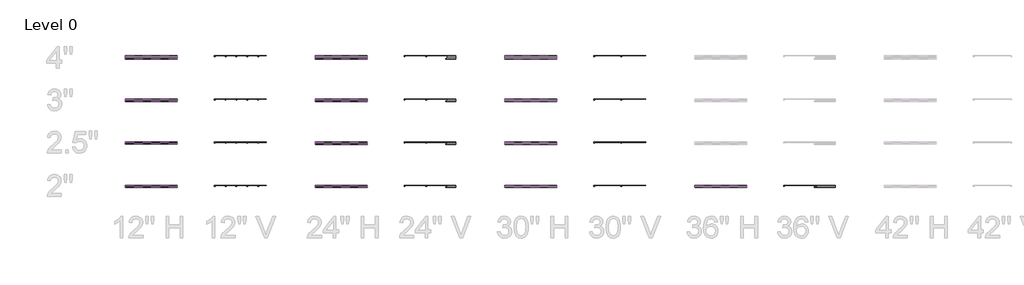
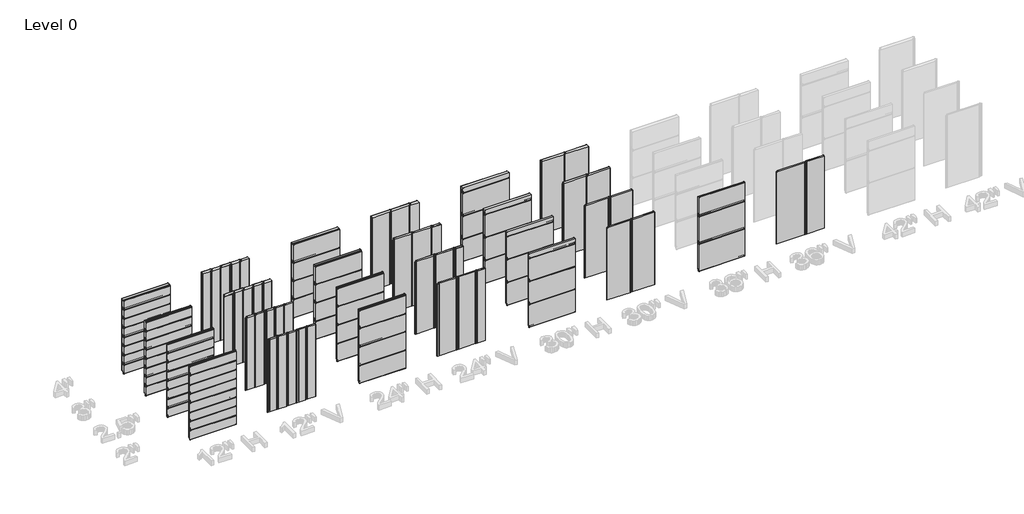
# One storey, part 1 of 5: 109 plates.
"""IFC4 building model written with IfcOpenShell, lengths in millimetres."""

from ifc_helpers import new_model, si_unit, origin, place, context, project, spatial, transform, mapped, element, save
from components import plate_6fed119e, plate_89e84f46, plate_48900397, plate_868071fc, plate_8f768d0c, plate_a425dd43, plate_01add622, plate_84317ace, plate_8016c28f, plate_4f4d566a, plate_5a420305, plate_5605c388, plate_24239458, plate_c147d802, plate_52fbea68, plate_90fd1389, plate_66907302, plate_fa82ef35, plate_a30c68ed, plate_28d234ab, plate_cdfc6812, plate_cf595729, plate_7649aaa1, plate_0d08f7c9, plate_ffddabbd, plate_2691a210, plate_176f2685, plate_24272428, plate_8a14e245, plate_b0db7024, plate_51471944, plate_6d69c0c8, plate_39f8857a, plate_e788a3fa, plate_2abe45d6, plate_93284a91, plate_cbbe2ff7, plate_451096ce, plate_f979c6ee, plate_146f869e, plate_2396645b, plate_240653d1, plate_9375496b, plate_7b326403, plate_11812fda, plate_1d9811eb, plate_a71e47d3, plate_925c1c1f

model = new_model("IFC4")

# Units and contexts
model_context = context("Model", 3, world=origin())
ifc_project = project(units=[si_unit("LENGTHUNIT", "METRE", prefix="MILLI")], contexts=[model_context])

# Site, building, storey
site = spatial("IfcSite", under=ifc_project)
building = spatial("IfcBuilding", under=site)
storey = spatial("IfcBuildingStorey", under=building, Name="Level 0", Elevation=0.0)

# Plates
placement = place(None, origin())
plate_shape = plate_6fed119e(model_context)
element("IfcPlate", 1, ObjectType="KIP-36-DWHR-R19-CP-Hz-F : Hz 2\"", at=placement, inside=storey, context=model_context, shape_type="MappedRepresentation", body=[
    mapped(plate_shape, transform((-13782.7250935, 10881.8207172, 0.0), x_axis=(1.0, 0.0, 0.0), y_axis=(0.0, 1.0, 0.0), z_axis=(0.0, 0.0, 1.0))),
])
element("IfcPlate", 2, ObjectType="KIP-36-DWHR-R19-CP-Hz-F : Hz 2\"", at=placement, inside=storey, context=model_context, shape_type="MappedRepresentation", body=[
    mapped(plate_shape, transform((-13782.7250935, 10881.8207172, 914.4), x_axis=(1.0, 0.0, 0.0), y_axis=(0.0, 1.0, 0.0), z_axis=(0.0, 0.0, 1.0))),
])
plate_2_shape = plate_89e84f46(model_context)
element("IfcPlate", 3, ObjectType="KIP-36-DWHR-R19-CP-Hz-F : Hz 2\"", at=placement, inside=storey, context=model_context, shape_type="MappedRepresentation", body=[
    mapped(plate_2_shape, transform((-13782.7250935, 10881.8207172, 1828.8), x_axis=(1.0, 0.0, 0.0), y_axis=(0.0, 1.0, 0.0), z_axis=(0.0, 0.0, 1.0))),
])
plate_3_shape = plate_48900397(model_context)
element("IfcPlate", 4, ObjectType="KIP-30-DWHR-R19-CP-Hz-F : Hz 2\"", at=placement, inside=storey, context=model_context, shape_type="MappedRepresentation", body=[
    mapped(plate_3_shape, transform((-19116.7250935, 10881.8207172, 0.0), x_axis=(1.0, 0.0, 0.0), y_axis=(0.0, 1.0, 0.0), z_axis=(0.0, 0.0, 1.0))),
])
element("IfcPlate", 5, ObjectType="KIP-30-DWHR-R19-CP-Hz-F : Hz 2\"", at=placement, inside=storey, context=model_context, shape_type="MappedRepresentation", body=[
    mapped(plate_3_shape, transform((-19116.7250935, 10881.8207172, 762.2), x_axis=(1.0, 0.0, 0.0), y_axis=(0.0, 1.0, 0.0), z_axis=(0.0, 0.0, 1.0))),
])
element("IfcPlate", 6, ObjectType="KIP-30-DWHR-R19-CP-Hz-F : Hz 2\"", at=placement, inside=storey, context=model_context, shape_type="MappedRepresentation", body=[
    mapped(plate_3_shape, transform((-19116.7250935, 10881.8207172, 1524.4), x_axis=(1.0, 0.0, 0.0), y_axis=(0.0, 1.0, 0.0), z_axis=(0.0, 0.0, 1.0))),
])
plate_4_shape = plate_868071fc(model_context)
element("IfcPlate", 7, ObjectType="KIP-30-DWHR-R19-CP-Hz-F : Hz 2\"", at=placement, inside=storey, context=model_context, shape_type="MappedRepresentation", body=[
    mapped(plate_4_shape, transform((-19116.7250935, 10881.8207172, 2286.6), x_axis=(1.0, 0.0, 0.0), y_axis=(0.0, 1.0, 0.0), z_axis=(0.0, 0.0, 1.0))),
])
plate_5_shape = plate_8f768d0c(model_context)
element("IfcPlate", 8, ObjectType="KIP-24-DWHR-R19-CP-Hz-F : Hz 2\"", at=placement, inside=storey, context=model_context, shape_type="MappedRepresentation", body=[
    mapped(plate_5_shape, transform((-24450.7250935, 10881.8207172, 0.0), x_axis=(1.0, 0.0, 0.0), y_axis=(0.0, 1.0, 0.0), z_axis=(0.0, 0.0, 1.0))),
])
element("IfcPlate", 9, ObjectType="KIP-24-DWHR-R19-CP-Hz-F : Hz 2\"", at=placement, inside=storey, context=model_context, shape_type="MappedRepresentation", body=[
    mapped(plate_5_shape, transform((-24450.7250935, 10881.8207172, 609.6), x_axis=(1.0, 0.0, 0.0), y_axis=(0.0, 1.0, 0.0), z_axis=(0.0, 0.0, 1.0))),
])
element("IfcPlate", 10, ObjectType="KIP-24-DWHR-R19-CP-Hz-F : Hz 2\"", at=placement, inside=storey, context=model_context, shape_type="MappedRepresentation", body=[
    mapped(plate_5_shape, transform((-24450.7250935, 10881.8207172, 1219.2), x_axis=(1.0, 0.0, 0.0), y_axis=(0.0, 1.0, 0.0), z_axis=(0.0, 0.0, 1.0))),
])
plate_6_shape = plate_a425dd43(model_context)
element("IfcPlate", 11, ObjectType="KIP-24-DWHR-R19-CP-Hz-F : Hz 2\"", at=placement, inside=storey, context=model_context, shape_type="MappedRepresentation", body=[
    mapped(plate_6_shape, transform((-24450.7250935, 10881.8207172, 1828.8), x_axis=(1.0, 0.0, 0.0), y_axis=(0.0, 1.0, 0.0), z_axis=(0.0, 0.0, 1.0))),
])
plate_7_shape = plate_01add622(model_context)
element("IfcPlate", 12, ObjectType="KIP-12-DWHR-R19-CP-Hz-F : Hz 2\"", at=placement, inside=storey, context=model_context, shape_type="MappedRepresentation", body=[
    mapped(plate_7_shape, transform((-29784.7250935, 10881.8207172, 0.0), x_axis=(1.0, 0.0, 0.0), y_axis=(0.0, 1.0, 0.0), z_axis=(0.0, 0.0, 1.0))),
])
element("IfcPlate", 13, ObjectType="KIP-12-DWHR-R19-CP-Hz-F : Hz 2\"", at=placement, inside=storey, context=model_context, shape_type="MappedRepresentation", body=[
    mapped(plate_7_shape, transform((-29784.7250935, 10881.8207172, 304.8), x_axis=(1.0, 0.0, 0.0), y_axis=(0.0, 1.0, 0.0), z_axis=(0.0, 0.0, 1.0))),
])
element("IfcPlate", 14, ObjectType="KIP-12-DWHR-R19-CP-Hz-F : Hz 2\"", at=placement, inside=storey, context=model_context, shape_type="MappedRepresentation", body=[
    mapped(plate_7_shape, transform((-29784.7250935, 10881.8207172, 609.6), x_axis=(1.0, 0.0, 0.0), y_axis=(0.0, 1.0, 0.0), z_axis=(0.0, 0.0, 1.0))),
])
element("IfcPlate", 15, ObjectType="KIP-12-DWHR-R19-CP-Hz-F : Hz 2\"", at=placement, inside=storey, context=model_context, shape_type="MappedRepresentation", body=[
    mapped(plate_7_shape, transform((-29784.7250935, 10881.8207172, 914.4), x_axis=(1.0, 0.0, 0.0), y_axis=(0.0, 1.0, 0.0), z_axis=(0.0, 0.0, 1.0))),
])
element("IfcPlate", 16, ObjectType="KIP-12-DWHR-R19-CP-Hz-F : Hz 2\"", at=placement, inside=storey, context=model_context, shape_type="MappedRepresentation", body=[
    mapped(plate_7_shape, transform((-29784.7250935, 10881.8207172, 1219.2), x_axis=(1.0, 0.0, 0.0), y_axis=(0.0, 1.0, 0.0), z_axis=(0.0, 0.0, 1.0))),
])
element("IfcPlate", 17, ObjectType="KIP-12-DWHR-R19-CP-Hz-F : Hz 2\"", at=placement, inside=storey, context=model_context, shape_type="MappedRepresentation", body=[
    mapped(plate_7_shape, transform((-29784.7250935, 10881.8207172, 1524.0), x_axis=(1.0, 0.0, 0.0), y_axis=(0.0, 1.0, 0.0), z_axis=(0.0, 0.0, 1.0))),
])
element("IfcPlate", 18, ObjectType="KIP-12-DWHR-R19-CP-Hz-F : Hz 2\"", at=placement, inside=storey, context=model_context, shape_type="MappedRepresentation", body=[
    mapped(plate_7_shape, transform((-29784.7250935, 10881.8207172, 1828.8), x_axis=(1.0, 0.0, 0.0), y_axis=(0.0, 1.0, 0.0), z_axis=(0.0, 0.0, 1.0))),
])
plate_8_shape = plate_84317ace(model_context)
element("IfcPlate", 19, ObjectType="KIP-12-DWHR-R19-CP-Hz-F : Hz 2\"", at=placement, inside=storey, context=model_context, shape_type="MappedRepresentation", body=[
    mapped(plate_8_shape, transform((-29784.7250935, 10881.8207172, 2133.6), x_axis=(1.0, 0.0, 0.0), y_axis=(0.0, 1.0, 0.0), z_axis=(0.0, 0.0, 1.0))),
])
plate_9_shape = plate_8016c28f(model_context)
element("IfcPlate", 20, ObjectType="KIP-30-DWHR-R19-CP-Hz-F : Hz 2.5\"", at=placement, inside=storey, context=model_context, shape_type="MappedRepresentation", body=[
    mapped(plate_9_shape, transform((-19116.7250935, 12101.0207172, 0.0), x_axis=(1.0, 0.0, 0.0), y_axis=(0.0, 1.0, 0.0), z_axis=(0.0, 0.0, 1.0))),
])
element("IfcPlate", 21, ObjectType="KIP-30-DWHR-R19-CP-Hz-F : Hz 2.5\"", at=placement, inside=storey, context=model_context, shape_type="MappedRepresentation", body=[
    mapped(plate_9_shape, transform((-19116.7250935, 12101.0207172, 762.2), x_axis=(1.0, 0.0, 0.0), y_axis=(0.0, 1.0, 0.0), z_axis=(0.0, 0.0, 1.0))),
])
element("IfcPlate", 22, ObjectType="KIP-30-DWHR-R19-CP-Hz-F : Hz 2.5\"", at=placement, inside=storey, context=model_context, shape_type="MappedRepresentation", body=[
    mapped(plate_9_shape, transform((-19116.7250935, 12101.0207172, 1524.4), x_axis=(1.0, 0.0, 0.0), y_axis=(0.0, 1.0, 0.0), z_axis=(0.0, 0.0, 1.0))),
])
plate_10_shape = plate_4f4d566a(model_context)
element("IfcPlate", 23, ObjectType="KIP-30-DWHR-R19-CP-Hz-F : Hz 2.5\"", at=placement, inside=storey, context=model_context, shape_type="MappedRepresentation", body=[
    mapped(plate_10_shape, transform((-19116.7250935, 12101.0207172, 2286.6), x_axis=(1.0, 0.0, 0.0), y_axis=(0.0, 1.0, 0.0), z_axis=(0.0, 0.0, 1.0))),
])
plate_11_shape = plate_5a420305(model_context)
element("IfcPlate", 24, ObjectType="KIP-24-DWHR-R19-CP-Hz-F : Hz 2.5\"", at=placement, inside=storey, context=model_context, shape_type="MappedRepresentation", body=[
    mapped(plate_11_shape, transform((-24450.7250935, 12101.0207172, 0.0), x_axis=(1.0, 0.0, 0.0), y_axis=(0.0, 1.0, 0.0), z_axis=(0.0, 0.0, 1.0))),
])
element("IfcPlate", 25, ObjectType="KIP-24-DWHR-R19-CP-Hz-F : Hz 2.5\"", at=placement, inside=storey, context=model_context, shape_type="MappedRepresentation", body=[
    mapped(plate_11_shape, transform((-24450.7250935, 12101.0207172, 609.6), x_axis=(1.0, 0.0, 0.0), y_axis=(0.0, 1.0, 0.0), z_axis=(0.0, 0.0, 1.0))),
])
element("IfcPlate", 26, ObjectType="KIP-24-DWHR-R19-CP-Hz-F : Hz 2.5\"", at=placement, inside=storey, context=model_context, shape_type="MappedRepresentation", body=[
    mapped(plate_11_shape, transform((-24450.7250935, 12101.0207172, 1219.2), x_axis=(1.0, 0.0, 0.0), y_axis=(0.0, 1.0, 0.0), z_axis=(0.0, 0.0, 1.0))),
])
plate_12_shape = plate_5605c388(model_context)
element("IfcPlate", 27, ObjectType="KIP-24-DWHR-R19-CP-Hz-F : Hz 2.5\"", at=placement, inside=storey, context=model_context, shape_type="MappedRepresentation", body=[
    mapped(plate_12_shape, transform((-24450.7250935, 12101.0207172, 1828.8), x_axis=(1.0, 0.0, 0.0), y_axis=(0.0, 1.0, 0.0), z_axis=(0.0, 0.0, 1.0))),
])
element("IfcPlate", 28, ObjectType="KIP-12-DWHR-R19-CP-Hz-F : Hz 2.5\"", at=placement, inside=storey, context=model_context, shape_type="MappedRepresentation", body=[
    mapped(plate_7_shape, transform((-29784.7250935, 12101.0207172, 0.0), x_axis=(1.0, 0.0, 0.0), y_axis=(0.0, 1.0, 0.0), z_axis=(0.0, 0.0, 1.0))),
])
element("IfcPlate", 29, ObjectType="KIP-12-DWHR-R19-CP-Hz-F : Hz 2.5\"", at=placement, inside=storey, context=model_context, shape_type="MappedRepresentation", body=[
    mapped(plate_7_shape, transform((-29784.7250935, 12101.0207172, 304.8), x_axis=(1.0, 0.0, 0.0), y_axis=(0.0, 1.0, 0.0), z_axis=(0.0, 0.0, 1.0))),
])
element("IfcPlate", 30, ObjectType="KIP-12-DWHR-R19-CP-Hz-F : Hz 2.5\"", at=placement, inside=storey, context=model_context, shape_type="MappedRepresentation", body=[
    mapped(plate_7_shape, transform((-29784.7250935, 12101.0207172, 609.6), x_axis=(1.0, 0.0, 0.0), y_axis=(0.0, 1.0, 0.0), z_axis=(0.0, 0.0, 1.0))),
])
element("IfcPlate", 31, ObjectType="KIP-12-DWHR-R19-CP-Hz-F : Hz 2.5\"", at=placement, inside=storey, context=model_context, shape_type="MappedRepresentation", body=[
    mapped(plate_7_shape, transform((-29784.7250935, 12101.0207172, 914.4), x_axis=(1.0, 0.0, 0.0), y_axis=(0.0, 1.0, 0.0), z_axis=(0.0, 0.0, 1.0))),
])
element("IfcPlate", 32, ObjectType="KIP-12-DWHR-R19-CP-Hz-F : Hz 2.5\"", at=placement, inside=storey, context=model_context, shape_type="MappedRepresentation", body=[
    mapped(plate_7_shape, transform((-29784.7250935, 12101.0207172, 1219.2), x_axis=(1.0, 0.0, 0.0), y_axis=(0.0, 1.0, 0.0), z_axis=(0.0, 0.0, 1.0))),
])
element("IfcPlate", 33, ObjectType="KIP-12-DWHR-R19-CP-Hz-F : Hz 2.5\"", at=placement, inside=storey, context=model_context, shape_type="MappedRepresentation", body=[
    mapped(plate_7_shape, transform((-29784.7250935, 12101.0207172, 1524.0), x_axis=(1.0, 0.0, 0.0), y_axis=(0.0, 1.0, 0.0), z_axis=(0.0, 0.0, 1.0))),
])
element("IfcPlate", 34, ObjectType="KIP-12-DWHR-R19-CP-Hz-F : Hz 2.5\"", at=placement, inside=storey, context=model_context, shape_type="MappedRepresentation", body=[
    mapped(plate_7_shape, transform((-29784.7250935, 12101.0207172, 1828.8), x_axis=(1.0, 0.0, 0.0), y_axis=(0.0, 1.0, 0.0), z_axis=(0.0, 0.0, 1.0))),
])
element("IfcPlate", 35, ObjectType="KIP-12-DWHR-R19-CP-Hz-F : Hz 2.5\"", at=placement, inside=storey, context=model_context, shape_type="MappedRepresentation", body=[
    mapped(plate_8_shape, transform((-29784.7250935, 12101.0207172, 2133.6), x_axis=(1.0, 0.0, 0.0), y_axis=(0.0, 1.0, 0.0), z_axis=(0.0, 0.0, 1.0))),
])
plate_13_shape = plate_24239458(model_context)
element("IfcPlate", 36, ObjectType="KIP-30-DWHR-R19-CP-Hz-F : Hz 3\"", at=placement, inside=storey, context=model_context, shape_type="MappedRepresentation", body=[
    mapped(plate_13_shape, transform((-19116.7250935, 13320.2207172, 0.0), x_axis=(1.0, 0.0, 0.0), y_axis=(0.0, 1.0, 0.0), z_axis=(0.0, 0.0, 1.0))),
])
element("IfcPlate", 37, ObjectType="KIP-30-DWHR-R19-CP-Hz-F : Hz 3\"", at=placement, inside=storey, context=model_context, shape_type="MappedRepresentation", body=[
    mapped(plate_13_shape, transform((-19116.7250935, 13320.2207172, 762.2), x_axis=(1.0, 0.0, 0.0), y_axis=(0.0, 1.0, 0.0), z_axis=(0.0, 0.0, 1.0))),
])
element("IfcPlate", 38, ObjectType="KIP-30-DWHR-R19-CP-Hz-F : Hz 3\"", at=placement, inside=storey, context=model_context, shape_type="MappedRepresentation", body=[
    mapped(plate_13_shape, transform((-19116.7250935, 13320.2207172, 1524.4), x_axis=(1.0, 0.0, 0.0), y_axis=(0.0, 1.0, 0.0), z_axis=(0.0, 0.0, 1.0))),
])
plate_14_shape = plate_c147d802(model_context)
element("IfcPlate", 39, ObjectType="KIP-30-DWHR-R19-CP-Hz-F : Hz 3\"", at=placement, inside=storey, context=model_context, shape_type="MappedRepresentation", body=[
    mapped(plate_14_shape, transform((-19116.7250935, 13320.2207172, 2286.6), x_axis=(1.0, 0.0, 0.0), y_axis=(0.0, 1.0, 0.0), z_axis=(0.0, 0.0, 1.0))),
])
plate_15_shape = plate_52fbea68(model_context)
element("IfcPlate", 40, ObjectType="KIP-24-DWHR-R19-CP-Hz-F : Hz 3\"", at=placement, inside=storey, context=model_context, shape_type="MappedRepresentation", body=[
    mapped(plate_15_shape, transform((-24450.7250935, 13320.2207172, 0.0), x_axis=(1.0, 0.0, 0.0), y_axis=(0.0, 1.0, 0.0), z_axis=(0.0, 0.0, 1.0))),
])
element("IfcPlate", 41, ObjectType="KIP-24-DWHR-R19-CP-Hz-F : Hz 3\"", at=placement, inside=storey, context=model_context, shape_type="MappedRepresentation", body=[
    mapped(plate_15_shape, transform((-24450.7250935, 13320.2207172, 609.6), x_axis=(1.0, 0.0, 0.0), y_axis=(0.0, 1.0, 0.0), z_axis=(0.0, 0.0, 1.0))),
])
element("IfcPlate", 42, ObjectType="KIP-24-DWHR-R19-CP-Hz-F : Hz 3\"", at=placement, inside=storey, context=model_context, shape_type="MappedRepresentation", body=[
    mapped(plate_15_shape, transform((-24450.7250935, 13320.2207172, 1219.2), x_axis=(1.0, 0.0, 0.0), y_axis=(0.0, 1.0, 0.0), z_axis=(0.0, 0.0, 1.0))),
])
plate_16_shape = plate_90fd1389(model_context)
element("IfcPlate", 43, ObjectType="KIP-24-DWHR-R19-CP-Hz-F : Hz 3\"", at=placement, inside=storey, context=model_context, shape_type="MappedRepresentation", body=[
    mapped(plate_16_shape, transform((-24450.7250935, 13320.2207172, 1828.8), x_axis=(1.0, 0.0, 0.0), y_axis=(0.0, 1.0, 0.0), z_axis=(0.0, 0.0, 1.0))),
])
plate_17_shape = plate_66907302(model_context)
element("IfcPlate", 44, ObjectType="KIP-12-DWHR-R19-CP-Hz-F : Hz 3\"", at=placement, inside=storey, context=model_context, shape_type="MappedRepresentation", body=[
    mapped(plate_17_shape, transform((-29784.7250935, 13320.2207172, 0.0), x_axis=(1.0, 0.0, 0.0), y_axis=(0.0, 1.0, 0.0), z_axis=(0.0, 0.0, 1.0))),
])
element("IfcPlate", 45, ObjectType="KIP-12-DWHR-R19-CP-Hz-F : Hz 3\"", at=placement, inside=storey, context=model_context, shape_type="MappedRepresentation", body=[
    mapped(plate_17_shape, transform((-29784.7250935, 13320.2207172, 304.8), x_axis=(1.0, 0.0, 0.0), y_axis=(0.0, 1.0, 0.0), z_axis=(0.0, 0.0, 1.0))),
])
element("IfcPlate", 46, ObjectType="KIP-12-DWHR-R19-CP-Hz-F : Hz 3\"", at=placement, inside=storey, context=model_context, shape_type="MappedRepresentation", body=[
    mapped(plate_17_shape, transform((-29784.7250935, 13320.2207172, 609.6), x_axis=(1.0, 0.0, 0.0), y_axis=(0.0, 1.0, 0.0), z_axis=(0.0, 0.0, 1.0))),
])
element("IfcPlate", 47, ObjectType="KIP-12-DWHR-R19-CP-Hz-F : Hz 3\"", at=placement, inside=storey, context=model_context, shape_type="MappedRepresentation", body=[
    mapped(plate_17_shape, transform((-29784.7250935, 13320.2207172, 914.4), x_axis=(1.0, 0.0, 0.0), y_axis=(0.0, 1.0, 0.0), z_axis=(0.0, 0.0, 1.0))),
])
element("IfcPlate", 48, ObjectType="KIP-12-DWHR-R19-CP-Hz-F : Hz 3\"", at=placement, inside=storey, context=model_context, shape_type="MappedRepresentation", body=[
    mapped(plate_17_shape, transform((-29784.7250935, 13320.2207172, 1219.2), x_axis=(1.0, 0.0, 0.0), y_axis=(0.0, 1.0, 0.0), z_axis=(0.0, 0.0, 1.0))),
])
element("IfcPlate", 49, ObjectType="KIP-12-DWHR-R19-CP-Hz-F : Hz 3\"", at=placement, inside=storey, context=model_context, shape_type="MappedRepresentation", body=[
    mapped(plate_17_shape, transform((-29784.7250935, 13320.2207172, 1524.0), x_axis=(1.0, 0.0, 0.0), y_axis=(0.0, 1.0, 0.0), z_axis=(0.0, 0.0, 1.0))),
])
element("IfcPlate", 50, ObjectType="KIP-12-DWHR-R19-CP-Hz-F : Hz 3\"", at=placement, inside=storey, context=model_context, shape_type="MappedRepresentation", body=[
    mapped(plate_17_shape, transform((-29784.7250935, 13320.2207172, 1828.8), x_axis=(1.0, 0.0, 0.0), y_axis=(0.0, 1.0, 0.0), z_axis=(0.0, 0.0, 1.0))),
])
plate_18_shape = plate_fa82ef35(model_context)
element("IfcPlate", 51, ObjectType="KIP-12-DWHR-R19-CP-Hz-F : Hz 3\"", at=placement, inside=storey, context=model_context, shape_type="MappedRepresentation", body=[
    mapped(plate_18_shape, transform((-29784.7250935, 13320.2207172, 2133.6), x_axis=(1.0, 0.0, 0.0), y_axis=(0.0, 1.0, 0.0), z_axis=(0.0, 0.0, 1.0))),
])
plate_19_shape = plate_a30c68ed(model_context)
element("IfcPlate", 52, ObjectType="KIP-30-DWHR-R19-CP-Hz-F : Hz 4\"", at=placement, inside=storey, context=model_context, shape_type="MappedRepresentation", body=[
    mapped(plate_19_shape, transform((-19116.7250935, 14539.4207172, 0.0), x_axis=(1.0, 0.0, 0.0), y_axis=(0.0, 1.0, 0.0), z_axis=(0.0, 0.0, 1.0))),
])
element("IfcPlate", 53, ObjectType="KIP-30-DWHR-R19-CP-Hz-F : Hz 4\"", at=placement, inside=storey, context=model_context, shape_type="MappedRepresentation", body=[
    mapped(plate_19_shape, transform((-19116.7250935, 14539.4207172, 762.2), x_axis=(1.0, 0.0, 0.0), y_axis=(0.0, 1.0, 0.0), z_axis=(0.0, 0.0, 1.0))),
])
element("IfcPlate", 54, ObjectType="KIP-30-DWHR-R19-CP-Hz-F : Hz 4\"", at=placement, inside=storey, context=model_context, shape_type="MappedRepresentation", body=[
    mapped(plate_19_shape, transform((-19116.7250935, 14539.4207172, 1524.4), x_axis=(1.0, 0.0, 0.0), y_axis=(0.0, 1.0, 0.0), z_axis=(0.0, 0.0, 1.0))),
])
plate_20_shape = plate_28d234ab(model_context)
element("IfcPlate", 55, ObjectType="KIP-30-DWHR-R19-CP-Hz-F : Hz 4\"", at=placement, inside=storey, context=model_context, shape_type="MappedRepresentation", body=[
    mapped(plate_20_shape, transform((-19116.7250935, 14539.4207172, 2286.6), x_axis=(1.0, 0.0, 0.0), y_axis=(0.0, 1.0, 0.0), z_axis=(0.0, 0.0, 1.0))),
])
plate_21_shape = plate_cdfc6812(model_context)
element("IfcPlate", 56, ObjectType="KIP-24-DWHR-R19-CP-Hz-F : Hz 4\"", at=placement, inside=storey, context=model_context, shape_type="MappedRepresentation", body=[
    mapped(plate_21_shape, transform((-24450.7250935, 14539.4207172, 0.0), x_axis=(1.0, 0.0, 0.0), y_axis=(0.0, 1.0, 0.0), z_axis=(0.0, 0.0, 1.0))),
])
element("IfcPlate", 57, ObjectType="KIP-24-DWHR-R19-CP-Hz-F : Hz 4\"", at=placement, inside=storey, context=model_context, shape_type="MappedRepresentation", body=[
    mapped(plate_21_shape, transform((-24450.7250935, 14539.4207172, 609.6), x_axis=(1.0, 0.0, 0.0), y_axis=(0.0, 1.0, 0.0), z_axis=(0.0, 0.0, 1.0))),
])
element("IfcPlate", 58, ObjectType="KIP-24-DWHR-R19-CP-Hz-F : Hz 4\"", at=placement, inside=storey, context=model_context, shape_type="MappedRepresentation", body=[
    mapped(plate_21_shape, transform((-24450.7250935, 14539.4207172, 1219.2), x_axis=(1.0, 0.0, 0.0), y_axis=(0.0, 1.0, 0.0), z_axis=(0.0, 0.0, 1.0))),
])
plate_22_shape = plate_cf595729(model_context)
element("IfcPlate", 59, ObjectType="KIP-24-DWHR-R19-CP-Hz-F : Hz 4\"", at=placement, inside=storey, context=model_context, shape_type="MappedRepresentation", body=[
    mapped(plate_22_shape, transform((-24450.7250935, 14539.4207172, 1828.8), x_axis=(1.0, 0.0, 0.0), y_axis=(0.0, 1.0, 0.0), z_axis=(0.0, 0.0, 1.0))),
])
plate_23_shape = plate_7649aaa1(model_context)
element("IfcPlate", 60, ObjectType="KIP-12-DWHR-R19-CP-Hz-F : Hz 4\"", at=placement, inside=storey, context=model_context, shape_type="MappedRepresentation", body=[
    mapped(plate_23_shape, transform((-29784.7250935, 14539.4207172, 0.0), x_axis=(1.0, 0.0, 0.0), y_axis=(0.0, 1.0, 0.0), z_axis=(0.0, 0.0, 1.0))),
])
element("IfcPlate", 61, ObjectType="KIP-12-DWHR-R19-CP-Hz-F : Hz 4\"", at=placement, inside=storey, context=model_context, shape_type="MappedRepresentation", body=[
    mapped(plate_23_shape, transform((-29784.7250935, 14539.4207172, 304.8), x_axis=(1.0, 0.0, 0.0), y_axis=(0.0, 1.0, 0.0), z_axis=(0.0, 0.0, 1.0))),
])
element("IfcPlate", 62, ObjectType="KIP-12-DWHR-R19-CP-Hz-F : Hz 4\"", at=placement, inside=storey, context=model_context, shape_type="MappedRepresentation", body=[
    mapped(plate_23_shape, transform((-29784.7250935, 14539.4207172, 609.6), x_axis=(1.0, 0.0, 0.0), y_axis=(0.0, 1.0, 0.0), z_axis=(0.0, 0.0, 1.0))),
])
element("IfcPlate", 63, ObjectType="KIP-12-DWHR-R19-CP-Hz-F : Hz 4\"", at=placement, inside=storey, context=model_context, shape_type="MappedRepresentation", body=[
    mapped(plate_23_shape, transform((-29784.7250935, 14539.4207172, 914.4), x_axis=(1.0, 0.0, 0.0), y_axis=(0.0, 1.0, 0.0), z_axis=(0.0, 0.0, 1.0))),
])
element("IfcPlate", 64, ObjectType="KIP-12-DWHR-R19-CP-Hz-F : Hz 4\"", at=placement, inside=storey, context=model_context, shape_type="MappedRepresentation", body=[
    mapped(plate_23_shape, transform((-29784.7250935, 14539.4207172, 1219.2), x_axis=(1.0, 0.0, 0.0), y_axis=(0.0, 1.0, 0.0), z_axis=(0.0, 0.0, 1.0))),
])
element("IfcPlate", 65, ObjectType="KIP-12-DWHR-R19-CP-Hz-F : Hz 4\"", at=placement, inside=storey, context=model_context, shape_type="MappedRepresentation", body=[
    mapped(plate_23_shape, transform((-29784.7250935, 14539.4207172, 1524.0), x_axis=(1.0, 0.0, 0.0), y_axis=(0.0, 1.0, 0.0), z_axis=(0.0, 0.0, 1.0))),
])
element("IfcPlate", 66, ObjectType="KIP-12-DWHR-R19-CP-Hz-F : Hz 4\"", at=placement, inside=storey, context=model_context, shape_type="MappedRepresentation", body=[
    mapped(plate_23_shape, transform((-29784.7250935, 14539.4207172, 1828.8), x_axis=(1.0, 0.0, 0.0), y_axis=(0.0, 1.0, 0.0), z_axis=(0.0, 0.0, 1.0))),
])
plate_24_shape = plate_0d08f7c9(model_context)
element("IfcPlate", 67, ObjectType="KIP-12-DWHR-R19-CP-Hz-F : Hz 4\"", at=placement, inside=storey, context=model_context, shape_type="MappedRepresentation", body=[
    mapped(plate_24_shape, transform((-29784.7250935, 14539.4207172, 2133.6), x_axis=(1.0, 0.0, 0.0), y_axis=(0.0, 1.0, 0.0), z_axis=(0.0, 0.0, 1.0))),
])
plate_25_shape = plate_ffddabbd(model_context)
element("IfcPlate", 68, ObjectType="KIP-36-DWHR-R19-CP-Vt-F : Vt 2\"", at=placement, inside=storey, context=model_context, shape_type="MappedRepresentation", body=[
    mapped(plate_25_shape, transform((-11555.7413834, 10881.8207172, 0.0), x_axis=(1.0, 0.0, 0.0), y_axis=(0.0, 1.0, 0.0), z_axis=(0.0, 0.0, 1.0))),
])
plate_26_shape = plate_2691a210(model_context)
element("IfcPlate", 69, ObjectType="KIP-36-DWHR-R19-CP-Vt-F : Vt 2\"", at=placement, inside=storey, context=model_context, shape_type="MappedRepresentation", body=[
    mapped(plate_26_shape, transform((-10825.7413834, 10881.8207172, 0.0), x_axis=(1.0, 0.0, 0.0), y_axis=(0.0, 1.0, 0.0), z_axis=(0.0, 0.0, 1.0))),
])
plate_27_shape = plate_176f2685(model_context)
element("IfcPlate", 70, ObjectType="KIP-30-DWHR-R19-CP-Vt-F : Vt 2\"", at=placement, inside=storey, context=model_context, shape_type="MappedRepresentation", body=[
    mapped(plate_27_shape, transform((-16965.9413834, 10881.8207172, 0.0), x_axis=(1.0, 0.0, 0.0), y_axis=(0.0, 1.0, 0.0), z_axis=(0.0, 0.0, 1.0))),
])
plate_28_shape = plate_24272428(model_context)
element("IfcPlate", 71, ObjectType="KIP-30-DWHR-R19-CP-Vt-F : Vt 2\"", at=placement, inside=storey, context=model_context, shape_type="MappedRepresentation", body=[
    mapped(plate_28_shape, transform((-16235.9413834, 10881.8207172, 0.0), x_axis=(1.0, 0.0, 0.0), y_axis=(0.0, 1.0, 0.0), z_axis=(0.0, 0.0, 1.0))),
])
plate_29_shape = plate_8a14e245(model_context)
element("IfcPlate", 72, ObjectType="KIP-24-DWHR-R19-CP-Vt-F : Vt 2\"", at=placement, inside=storey, context=model_context, shape_type="MappedRepresentation", body=[
    mapped(plate_29_shape, transform((-22376.1413834, 10881.8207172, 0.0), x_axis=(1.0, 0.0, 0.0), y_axis=(0.0, 1.0, 0.0), z_axis=(0.0, 0.0, 1.0))),
])
element("IfcPlate", 73, ObjectType="KIP-24-DWHR-R19-CP-Vt-F : Vt 2\"", at=placement, inside=storey, context=model_context, shape_type="MappedRepresentation", body=[
    mapped(plate_29_shape, transform((-21766.5413833, 10881.8207172, 0.0), x_axis=(1.0, 0.0, 0.0), y_axis=(0.0, 1.0, 0.0), z_axis=(0.0, 0.0, 1.0))),
])
plate_30_shape = plate_b0db7024(model_context)
element("IfcPlate", 74, ObjectType="KIP-24-DWHR-R19-CP-Vt-F : Vt 2\"", at=placement, inside=storey, context=model_context, shape_type="MappedRepresentation", body=[
    mapped(plate_30_shape, transform((-21341.3413834, 10881.8207172, 0.0), x_axis=(1.0, 0.0, 0.0), y_axis=(0.0, 1.0, 0.0), z_axis=(0.0, 0.0, 1.0))),
])
plate_31_shape = plate_51471944(model_context)
element("IfcPlate", 75, ObjectType="KIP-12-DWHR-R19-CP-Vt-F : Vt 2\"", at=placement, inside=storey, context=model_context, shape_type="MappedRepresentation", body=[
    mapped(plate_31_shape, transform((-27862.5413834, 10881.8207172, 0.0), x_axis=(1.0, 0.0, 0.0), y_axis=(0.0, 1.0, 0.0), z_axis=(0.0, 0.0, 1.0))),
])
element("IfcPlate", 76, ObjectType="KIP-12-DWHR-R19-CP-Vt-F : Vt 2\"", at=placement, inside=storey, context=model_context, shape_type="MappedRepresentation", body=[
    mapped(plate_31_shape, transform((-26948.1413833, 10881.8207172, 0.0), x_axis=(1.0, 0.0, 0.0), y_axis=(0.0, 1.0, 0.0), z_axis=(0.0, 0.0, 1.0))),
])
element("IfcPlate", 77, ObjectType="KIP-12-DWHR-R19-CP-Vt-F : Vt 2\"", at=placement, inside=storey, context=model_context, shape_type="MappedRepresentation", body=[
    mapped(plate_31_shape, transform((-27252.9413833, 10881.8207172, 0.0), x_axis=(1.0, 0.0, 0.0), y_axis=(0.0, 1.0, 0.0), z_axis=(0.0, 0.0, 1.0))),
])
element("IfcPlate", 78, ObjectType="KIP-12-DWHR-R19-CP-Vt-F : Vt 2\"", at=placement, inside=storey, context=model_context, shape_type="MappedRepresentation", body=[
    mapped(plate_31_shape, transform((-27557.7413833, 10881.8207172, 0.0), x_axis=(1.0, 0.0, 0.0), y_axis=(0.0, 1.0, 0.0), z_axis=(0.0, 0.0, 1.0))),
])
plate_32_shape = plate_6d69c0c8(model_context)
element("IfcPlate", 79, ObjectType="KIP-12-DWHR-R19-CP-Vt-F : Vt 2\"", at=placement, inside=storey, context=model_context, shape_type="MappedRepresentation", body=[
    mapped(plate_32_shape, transform((-26675.3413834, 10881.8207172, 0.0), x_axis=(1.0, 0.0, 0.0), y_axis=(0.0, 1.0, 0.0), z_axis=(0.0, 0.0, 1.0))),
])
plate_33_shape = plate_39f8857a(model_context)
element("IfcPlate", 80, ObjectType="KIP-30-DWHR-R19-CP-Vt-F : Vt 2.5\"", at=placement, inside=storey, context=model_context, shape_type="MappedRepresentation", body=[
    mapped(plate_33_shape, transform((-16965.9413834, 12101.0207172, 0.0), x_axis=(1.0, 0.0, 0.0), y_axis=(0.0, 1.0, 0.0), z_axis=(0.0, 0.0, 1.0))),
])
plate_34_shape = plate_e788a3fa(model_context)
element("IfcPlate", 81, ObjectType="KIP-30-DWHR-R19-CP-Vt-F : Vt 2.5\"", at=placement, inside=storey, context=model_context, shape_type="MappedRepresentation", body=[
    mapped(plate_34_shape, transform((-16235.9413834, 12101.0207172, 0.0), x_axis=(1.0, 0.0, 0.0), y_axis=(0.0, 1.0, 0.0), z_axis=(0.0, 0.0, 1.0))),
])
plate_35_shape = plate_2abe45d6(model_context)
element("IfcPlate", 82, ObjectType="KIP-24-DWHR-R19-CP-Vt-F : Vt 2.5\"", at=placement, inside=storey, context=model_context, shape_type="MappedRepresentation", body=[
    mapped(plate_35_shape, transform((-22376.1413834, 12101.0207172, 0.0), x_axis=(1.0, 0.0, 0.0), y_axis=(0.0, 1.0, 0.0), z_axis=(0.0, 0.0, 1.0))),
])
element("IfcPlate", 83, ObjectType="KIP-24-DWHR-R19-CP-Vt-F : Vt 2.5\"", at=placement, inside=storey, context=model_context, shape_type="MappedRepresentation", body=[
    mapped(plate_35_shape, transform((-21766.5413833, 12101.0207172, 0.0), x_axis=(1.0, 0.0, 0.0), y_axis=(0.0, 1.0, 0.0), z_axis=(0.0, 0.0, 1.0))),
])
plate_36_shape = plate_93284a91(model_context)
element("IfcPlate", 84, ObjectType="KIP-24-DWHR-R19-CP-Vt-F : Vt 2.5\"", at=placement, inside=storey, context=model_context, shape_type="MappedRepresentation", body=[
    mapped(plate_36_shape, transform((-21341.3413834, 12101.0207172, 0.0), x_axis=(1.0, 0.0, 0.0), y_axis=(0.0, 1.0, 0.0), z_axis=(0.0, 0.0, 1.0))),
])
plate_37_shape = plate_cbbe2ff7(model_context)
element("IfcPlate", 85, ObjectType="KIP-12-DWHR-R19-CP-Vt-F : Vt 2.5\"", at=placement, inside=storey, context=model_context, shape_type="MappedRepresentation", body=[
    mapped(plate_37_shape, transform((-27862.5413834, 12101.0207172, 0.0), x_axis=(1.0, 0.0, 0.0), y_axis=(0.0, 1.0, 0.0), z_axis=(0.0, 0.0, 1.0))),
])
element("IfcPlate", 86, ObjectType="KIP-12-DWHR-R19-CP-Vt-F : Vt 2.5\"", at=placement, inside=storey, context=model_context, shape_type="MappedRepresentation", body=[
    mapped(plate_37_shape, transform((-26948.1413833, 12101.0207172, 0.0), x_axis=(1.0, 0.0, 0.0), y_axis=(0.0, 1.0, 0.0), z_axis=(0.0, 0.0, 1.0))),
])
element("IfcPlate", 87, ObjectType="KIP-12-DWHR-R19-CP-Vt-F : Vt 2.5\"", at=placement, inside=storey, context=model_context, shape_type="MappedRepresentation", body=[
    mapped(plate_37_shape, transform((-27252.9413833, 12101.0207172, 0.0), x_axis=(1.0, 0.0, 0.0), y_axis=(0.0, 1.0, 0.0), z_axis=(0.0, 0.0, 1.0))),
])
element("IfcPlate", 88, ObjectType="KIP-12-DWHR-R19-CP-Vt-F : Vt 2.5\"", at=placement, inside=storey, context=model_context, shape_type="MappedRepresentation", body=[
    mapped(plate_37_shape, transform((-27557.7413833, 12101.0207172, 0.0), x_axis=(1.0, 0.0, 0.0), y_axis=(0.0, 1.0, 0.0), z_axis=(0.0, 0.0, 1.0))),
])
plate_38_shape = plate_451096ce(model_context)
element("IfcPlate", 89, ObjectType="KIP-12-DWHR-R19-CP-Vt-F : Vt 2.5\"", at=placement, inside=storey, context=model_context, shape_type="MappedRepresentation", body=[
    mapped(plate_38_shape, transform((-26675.3413834, 12101.0207172, 0.0), x_axis=(1.0, 0.0, 0.0), y_axis=(0.0, 1.0, 0.0), z_axis=(0.0, 0.0, 1.0))),
])
plate_39_shape = plate_f979c6ee(model_context)
element("IfcPlate", 90, ObjectType="KIP-30-DWHR-R19-CP-Vt-F : Vt 3\"", at=placement, inside=storey, context=model_context, shape_type="MappedRepresentation", body=[
    mapped(plate_39_shape, transform((-16965.9413834, 13320.2207172, 0.0), x_axis=(1.0, 0.0, 0.0), y_axis=(0.0, 1.0, 0.0), z_axis=(0.0, 0.0, 1.0))),
])
plate_40_shape = plate_146f869e(model_context)
element("IfcPlate", 91, ObjectType="KIP-30-DWHR-R19-CP-Vt-F : Vt 3\"", at=placement, inside=storey, context=model_context, shape_type="MappedRepresentation", body=[
    mapped(plate_40_shape, transform((-16235.9413834, 13320.2207172, 0.0), x_axis=(1.0, 0.0, 0.0), y_axis=(0.0, 1.0, 0.0), z_axis=(0.0, 0.0, 1.0))),
])
plate_41_shape = plate_2396645b(model_context)
element("IfcPlate", 92, ObjectType="KIP-24-DWHR-R19-CP-Vt-F : Vt 3\"", at=placement, inside=storey, context=model_context, shape_type="MappedRepresentation", body=[
    mapped(plate_41_shape, transform((-22376.1413834, 13320.2207172, 0.0), x_axis=(1.0, 0.0, 0.0), y_axis=(0.0, 1.0, 0.0), z_axis=(0.0, 0.0, 1.0))),
])
element("IfcPlate", 93, ObjectType="KIP-24-DWHR-R19-CP-Vt-F : Vt 3\"", at=placement, inside=storey, context=model_context, shape_type="MappedRepresentation", body=[
    mapped(plate_41_shape, transform((-21766.5413833, 13320.2207172, 0.0), x_axis=(1.0, 0.0, 0.0), y_axis=(0.0, 1.0, 0.0), z_axis=(0.0, 0.0, 1.0))),
])
plate_42_shape = plate_240653d1(model_context)
element("IfcPlate", 94, ObjectType="KIP-24-DWHR-R19-CP-Vt-F : Vt 3\"", at=placement, inside=storey, context=model_context, shape_type="MappedRepresentation", body=[
    mapped(plate_42_shape, transform((-21341.3413834, 13320.2207172, 0.0), x_axis=(1.0, 0.0, 0.0), y_axis=(0.0, 1.0, 0.0), z_axis=(0.0, 0.0, 1.0))),
])
plate_43_shape = plate_9375496b(model_context)
element("IfcPlate", 95, ObjectType="KIP-12-DWHR-R19-CP-Vt-F : Vt 3\"", at=placement, inside=storey, context=model_context, shape_type="MappedRepresentation", body=[
    mapped(plate_43_shape, transform((-27862.5413834, 13320.2207172, 0.0), x_axis=(1.0, 0.0, 0.0), y_axis=(0.0, 1.0, 0.0), z_axis=(0.0, 0.0, 1.0))),
])
element("IfcPlate", 96, ObjectType="KIP-12-DWHR-R19-CP-Vt-F : Vt 3\"", at=placement, inside=storey, context=model_context, shape_type="MappedRepresentation", body=[
    mapped(plate_43_shape, transform((-26948.1413833, 13320.2207172, 0.0), x_axis=(1.0, 0.0, 0.0), y_axis=(0.0, 1.0, 0.0), z_axis=(0.0, 0.0, 1.0))),
])
element("IfcPlate", 97, ObjectType="KIP-12-DWHR-R19-CP-Vt-F : Vt 3\"", at=placement, inside=storey, context=model_context, shape_type="MappedRepresentation", body=[
    mapped(plate_43_shape, transform((-27252.9413833, 13320.2207172, 0.0), x_axis=(1.0, 0.0, 0.0), y_axis=(0.0, 1.0, 0.0), z_axis=(0.0, 0.0, 1.0))),
])
element("IfcPlate", 98, ObjectType="KIP-12-DWHR-R19-CP-Vt-F : Vt 3\"", at=placement, inside=storey, context=model_context, shape_type="MappedRepresentation", body=[
    mapped(plate_43_shape, transform((-27557.7413833, 13320.2207172, 0.0), x_axis=(1.0, 0.0, 0.0), y_axis=(0.0, 1.0, 0.0), z_axis=(0.0, 0.0, 1.0))),
])
plate_44_shape = plate_7b326403(model_context)
element("IfcPlate", 99, ObjectType="KIP-12-DWHR-R19-CP-Vt-F : Vt 3\"", at=placement, inside=storey, context=model_context, shape_type="MappedRepresentation", body=[
    mapped(plate_44_shape, transform((-26675.3413834, 13320.2207172, 0.0), x_axis=(1.0, 0.0, 0.0), y_axis=(0.0, 1.0, 0.0), z_axis=(0.0, 0.0, 1.0))),
])
plate_45_shape = plate_11812fda(model_context)
element("IfcPlate", 100, ObjectType="KIP-30-DWHR-R19-CP-Vt-F : Vt 4\"", at=placement, inside=storey, context=model_context, shape_type="MappedRepresentation", body=[
    mapped(plate_45_shape, transform((-16965.9413834, 14539.4207172, 0.0), x_axis=(1.0, 0.0, 0.0), y_axis=(0.0, 1.0, 0.0), z_axis=(0.0, 0.0, 1.0))),
])
plate_46_shape = plate_1d9811eb(model_context)
element("IfcPlate", 101, ObjectType="KIP-30-DWHR-R19-CP-Vt-F : Vt 4\"", at=placement, inside=storey, context=model_context, shape_type="MappedRepresentation", body=[
    mapped(plate_46_shape, transform((-16235.9413834, 14539.4207172, 0.0), x_axis=(1.0, 0.0, 0.0), y_axis=(0.0, 1.0, 0.0), z_axis=(0.0, 0.0, 1.0))),
])
plate_47_shape = plate_a71e47d3(model_context)
element("IfcPlate", 102, ObjectType="KIP-24-DWHR-R19-CP-Vt-F : Vt 4\"", at=placement, inside=storey, context=model_context, shape_type="MappedRepresentation", body=[
    mapped(plate_47_shape, transform((-22376.1413834, 14539.4207172, 0.0), x_axis=(1.0, 0.0, 0.0), y_axis=(0.0, 1.0, 0.0), z_axis=(0.0, 0.0, 1.0))),
])
element("IfcPlate", 103, ObjectType="KIP-24-DWHR-R19-CP-Vt-F : Vt 4\"", at=placement, inside=storey, context=model_context, shape_type="MappedRepresentation", body=[
    mapped(plate_47_shape, transform((-21766.5413833, 14539.4207172, 0.0), x_axis=(1.0, 0.0, 0.0), y_axis=(0.0, 1.0, 0.0), z_axis=(0.0, 0.0, 1.0))),
])
plate_48_shape = plate_925c1c1f(model_context)
element("IfcPlate", 104, ObjectType="KIP-24-DWHR-R19-CP-Vt-F : Vt 4\"", at=placement, inside=storey, context=model_context, shape_type="MappedRepresentation", body=[
    mapped(plate_48_shape, transform((-21341.3413834, 14539.4207172, 0.0), x_axis=(1.0, 0.0, 0.0), y_axis=(0.0, 1.0, 0.0), z_axis=(0.0, 0.0, 1.0))),
])
element("IfcPlate", 105, ObjectType="KIP-12-DWHR-R19-CP-Vt-F : Vt 4\"", at=placement, inside=storey, context=model_context, shape_type="MappedRepresentation", body=[
    mapped(plate_43_shape, transform((-27862.5413834, 14539.4207172, 0.0), x_axis=(1.0, 0.0, 0.0), y_axis=(0.0, 1.0, 0.0), z_axis=(0.0, 0.0, 1.0))),
])
element("IfcPlate", 106, ObjectType="KIP-12-DWHR-R19-CP-Vt-F : Vt 4\"", at=placement, inside=storey, context=model_context, shape_type="MappedRepresentation", body=[
    mapped(plate_43_shape, transform((-26948.1413833, 14539.4207172, 0.0), x_axis=(1.0, 0.0, 0.0), y_axis=(0.0, 1.0, 0.0), z_axis=(0.0, 0.0, 1.0))),
])
element("IfcPlate", 107, ObjectType="KIP-12-DWHR-R19-CP-Vt-F : Vt 4\"", at=placement, inside=storey, context=model_context, shape_type="MappedRepresentation", body=[
    mapped(plate_43_shape, transform((-27252.9413833, 14539.4207172, 0.0), x_axis=(1.0, 0.0, 0.0), y_axis=(0.0, 1.0, 0.0), z_axis=(0.0, 0.0, 1.0))),
])
element("IfcPlate", 108, ObjectType="KIP-12-DWHR-R19-CP-Vt-F : Vt 4\"", at=placement, inside=storey, context=model_context, shape_type="MappedRepresentation", body=[
    mapped(plate_43_shape, transform((-27557.7413833, 14539.4207172, 0.0), x_axis=(1.0, 0.0, 0.0), y_axis=(0.0, 1.0, 0.0), z_axis=(0.0, 0.0, 1.0))),
])
element("IfcPlate", 109, ObjectType="KIP-12-DWHR-R19-CP-Vt-F : Vt 4\"", at=placement, inside=storey, context=model_context, shape_type="MappedRepresentation", body=[
    mapped(plate_44_shape, transform((-26675.3413834, 14539.4207172, 0.0), x_axis=(1.0, 0.0, 0.0), y_axis=(0.0, 1.0, 0.0), z_axis=(0.0, 0.0, 1.0))),
])

save(model, "model.ifc")
